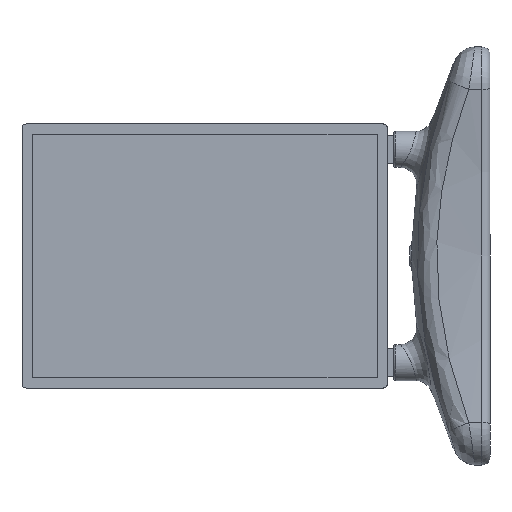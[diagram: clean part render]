
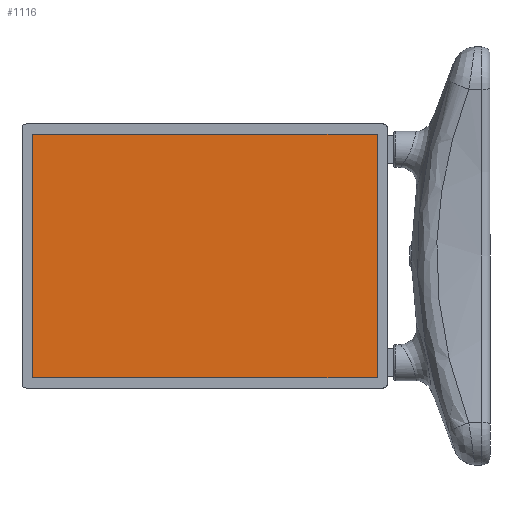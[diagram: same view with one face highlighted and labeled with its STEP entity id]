
A CAD part, left-side view. The second image highlights one B-rep face of the part: STEP entity #1116.
In plain terms, the highlighted planar face has unit normal (-1, 0, 0).
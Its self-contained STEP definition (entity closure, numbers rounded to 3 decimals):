
#115=LINE('',#3259,#189);
#119=LINE('',#3267,#193);
#122=LINE('',#3273,#196);
#125=LINE('',#3278,#199);
#189=VECTOR('',#1591,10.);
#193=VECTOR('',#1597,10.);
#196=VECTOR('',#1602,10.);
#199=VECTOR('',#1607,10.);
#229=PLANE('',#1304);
#313=FACE_OUTER_BOUND('',#388,.T.);
#388=EDGE_LOOP('',(#1031,#1032,#1033,#1034));
#563=VERTEX_POINT('',#3257);
#564=VERTEX_POINT('',#3258);
#567=VERTEX_POINT('',#3266);
#569=VERTEX_POINT('',#3272);
#715=EDGE_CURVE('',#563,#564,#115,.T.);
#719=EDGE_CURVE('',#567,#563,#119,.T.);
#722=EDGE_CURVE('',#564,#569,#122,.T.);
#725=EDGE_CURVE('',#569,#567,#125,.T.);
#1031=ORIENTED_EDGE('',*,*,#722,.F.);
#1032=ORIENTED_EDGE('',*,*,#715,.F.);
#1033=ORIENTED_EDGE('',*,*,#719,.F.);
#1034=ORIENTED_EDGE('',*,*,#725,.F.);
#1116=ADVANCED_FACE('',(#313),#229,.T.);
#1304=AXIS2_PLACEMENT_3D('',#3280,#1609,#1610);
#1591=DIRECTION('',(0.,-1.,0.));
#1597=DIRECTION('',(0.,0.,1.));
#1602=DIRECTION('',(0.,0.,-1.));
#1607=DIRECTION('',(0.,1.,0.));
#1609=DIRECTION('center_axis',(-1.,0.,0.));
#1610=DIRECTION('ref_axis',(0.,0.,1.));
#3257=CARTESIAN_POINT('',(-2.5,420.5,297.));
#3258=CARTESIAN_POINT('',(-2.5,-420.5,297.));
#3259=CARTESIAN_POINT('',(-2.5,-210.25,297.));
#3266=CARTESIAN_POINT('',(-2.5,420.5,-297.));
#3267=CARTESIAN_POINT('',(-2.5,420.5,148.5));
#3272=CARTESIAN_POINT('',(-2.5,-420.5,-297.));
#3273=CARTESIAN_POINT('',(-2.5,-420.5,-148.5));
#3278=CARTESIAN_POINT('',(-2.5,210.25,-297.));
#3280=CARTESIAN_POINT('Origin',(-2.5,0.,0.));
